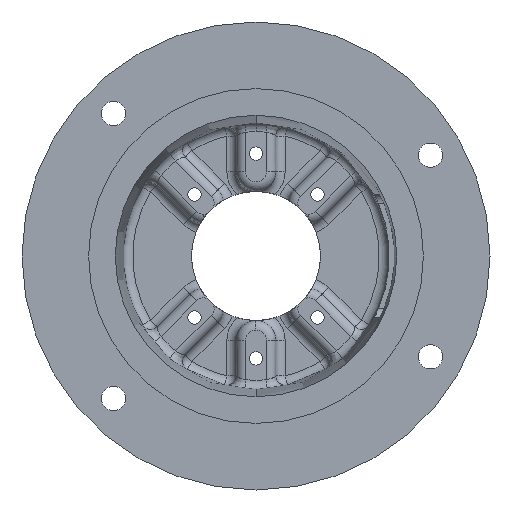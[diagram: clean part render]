
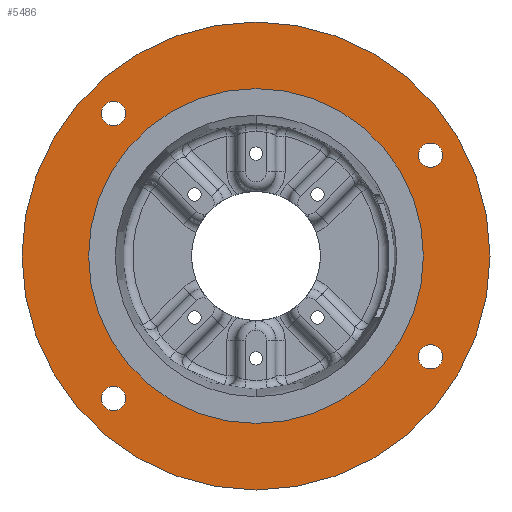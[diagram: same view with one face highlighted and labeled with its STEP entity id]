
A CAD part, front view. The second image highlights one B-rep face of the part: STEP entity #5486.
In plain terms, the highlighted planar face has unit normal (0, -1, 0).
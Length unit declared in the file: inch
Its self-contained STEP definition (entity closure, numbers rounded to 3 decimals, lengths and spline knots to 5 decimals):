
#61 = DIRECTION ( 'NONE',  ( 0., 0., -1. ) ) ;
#72 = DIRECTION ( 'NONE',  ( 0., 0., -1. ) ) ;
#93 = FACE_BOUND ( 'NONE', #2766, .T. ) ;
#133 = EDGE_CURVE ( 'NONE', #4486, #4375, #3570, .T. ) ;
#194 = AXIS2_PLACEMENT_3D ( 'NONE', #2025, #5898, #2582 ) ;
#208 = EDGE_CURVE ( 'NONE', #1495, #3956, #1748, .T. ) ;
#232 = DIRECTION ( 'NONE',  ( 0., 0., -1. ) ) ;
#259 = VERTEX_POINT ( 'NONE', #4059 ) ;
#282 = EDGE_LOOP ( 'NONE', ( #6484, #2380 ) ) ;
#319 = ORIENTED_EDGE ( 'NONE', *, *, #5654, .F. ) ;
#332 = EDGE_LOOP ( 'NONE', ( #2856, #4826 ) ) ;
#363 = AXIS2_PLACEMENT_3D ( 'NONE', #4843, #1519, #5396 ) ;
#402 = EDGE_CURVE ( 'NONE', #3956, #1495, #6928, .T. ) ;
#441 = VERTEX_POINT ( 'NONE', #6434 ) ;
#473 = EDGE_CURVE ( 'NONE', #3634, #3124, #902, .T. ) ;
#597 = CIRCLE ( 'NONE', #6866, 0.23438 ) ;
#772 = EDGE_LOOP ( 'NONE', ( #4644, #319 ) ) ;
#902 = CIRCLE ( 'NONE', #2045, 4.5 ) ;
#966 = VERTEX_POINT ( 'NONE', #6528 ) ;
#1013 = AXIS2_PLACEMENT_3D ( 'NONE', #6101, #2800, #6640 ) ;
#1055 = EDGE_CURVE ( 'NONE', #966, #259, #1398, .T. ) ;
#1212 = ORIENTED_EDGE ( 'NONE', *, *, #6654, .F. ) ;
#1315 = VERTEX_POINT ( 'NONE', #5710 ) ;
#1386 = FACE_BOUND ( 'NONE', #332, .T. ) ;
#1398 = CIRCLE ( 'NONE', #363, 0.23438 ) ;
#1444 = EDGE_LOOP ( 'NONE', ( #4508, #2929 ) ) ;
#1495 = VERTEX_POINT ( 'NONE', #3308 ) ;
#1519 = DIRECTION ( 'NONE',  ( 0., -1., 0. ) ) ;
#1560 = FACE_BOUND ( 'NONE', #6600, .T. ) ;
#1565 = CARTESIAN_POINT ( 'NONE',  ( 0., 0., -4.5 ) ) ;
#1748 = CIRCLE ( 'NONE', #3298, 0.23438 ) ;
#1769 = CARTESIAN_POINT ( 'NONE',  ( 0., 0., 0. ) ) ;
#1901 = CARTESIAN_POINT ( 'NONE',  ( 3.35585, 0., -1.70312 ) ) ;
#1997 = CIRCLE ( 'NONE', #1013, 0.23437 ) ;
#2025 = CARTESIAN_POINT ( 'NONE',  ( 3.35585, 0., 1.9375 ) ) ;
#2045 = AXIS2_PLACEMENT_3D ( 'NONE', #2629, #6476, #3176 ) ;
#2114 = DIRECTION ( 'NONE',  ( 0., -1., 0. ) ) ;
#2319 = CARTESIAN_POINT ( 'NONE',  ( 3.35585, 0., 1.9375 ) ) ;
#2340 = DIRECTION ( 'NONE',  ( 0., 0., -1. ) ) ;
#2380 = ORIENTED_EDGE ( 'NONE', *, *, #473, .T. ) ;
#2418 = DIRECTION ( 'NONE',  ( 0., -1., 0. ) ) ;
#2447 = AXIS2_PLACEMENT_3D ( 'NONE', #1769, #5653, #2340 ) ;
#2558 = AXIS2_PLACEMENT_3D ( 'NONE', #6675, #3385, #72 ) ;
#2582 = DIRECTION ( 'NONE',  ( 0., 0., -1. ) ) ;
#2629 = CARTESIAN_POINT ( 'NONE',  ( 0., 0., 0. ) ) ;
#2660 = CARTESIAN_POINT ( 'NONE',  ( -2.74004, 0., -2.74004 ) ) ;
#2717 = EDGE_CURVE ( 'NONE', #4375, #4486, #2862, .T. ) ;
#2766 = EDGE_LOOP ( 'NONE', ( #3453, #5418 ) ) ;
#2775 = CARTESIAN_POINT ( 'NONE',  ( 3.35585, 0., 1.70313 ) ) ;
#2800 = DIRECTION ( 'NONE',  ( 0., -1., 0. ) ) ;
#2856 = ORIENTED_EDGE ( 'NONE', *, *, #133, .F. ) ;
#2862 = CIRCLE ( 'NONE', #6680, 0.23438 ) ;
#2864 = FACE_OUTER_BOUND ( 'NONE', #282, .T. ) ;
#2884 = DIRECTION ( 'NONE',  ( 0., 0., -1. ) ) ;
#2929 = ORIENTED_EDGE ( 'NONE', *, *, #208, .F. ) ;
#2993 = AXIS2_PLACEMENT_3D ( 'NONE', #5404, #4834, #5972 ) ;
#3110 = EDGE_CURVE ( 'NONE', #441, #1315, #3123, .T. ) ;
#3116 = CIRCLE ( 'NONE', #6643, 0.23437 ) ;
#3123 = CIRCLE ( 'NONE', #4958, 3.2195 ) ;
#3124 = VERTEX_POINT ( 'NONE', #1565 ) ;
#3176 = DIRECTION ( 'NONE',  ( 0., 0., -1. ) ) ;
#3221 = DIRECTION ( 'NONE',  ( 0., 0., -1. ) ) ;
#3246 = CARTESIAN_POINT ( 'NONE',  ( 3.35585, 0., -2.17187 ) ) ;
#3298 = AXIS2_PLACEMENT_3D ( 'NONE', #2319, #6179, #2884 ) ;
#3308 = CARTESIAN_POINT ( 'NONE',  ( 3.35585, 0., 2.17188 ) ) ;
#3379 = DIRECTION ( 'NONE',  ( 0., -1., 0. ) ) ;
#3385 = DIRECTION ( 'NONE',  ( 0., -1., 0. ) ) ;
#3453 = ORIENTED_EDGE ( 'NONE', *, *, #3110, .F. ) ;
#3547 = DIRECTION ( 'NONE',  ( 0., -1., 0. ) ) ;
#3570 = CIRCLE ( 'NONE', #2558, 0.23438 ) ;
#3634 = VERTEX_POINT ( 'NONE', #3905 ) ;
#3798 = CIRCLE ( 'NONE', #6737, 4.5 ) ;
#3905 = CARTESIAN_POINT ( 'NONE',  ( 0., 0., 4.5 ) ) ;
#3956 = VERTEX_POINT ( 'NONE', #2775 ) ;
#4053 = CIRCLE ( 'NONE', #2447, 3.2195 ) ;
#4059 = CARTESIAN_POINT ( 'NONE',  ( -2.74004, 0., 2.97441 ) ) ;
#4143 = VERTEX_POINT ( 'NONE', #6732 ) ;
#4375 = VERTEX_POINT ( 'NONE', #1901 ) ;
#4486 = VERTEX_POINT ( 'NONE', #3246 ) ;
#4508 = ORIENTED_EDGE ( 'NONE', *, *, #402, .F. ) ;
#4644 = ORIENTED_EDGE ( 'NONE', *, *, #6451, .F. ) ;
#4826 = ORIENTED_EDGE ( 'NONE', *, *, #2717, .F. ) ;
#4834 = DIRECTION ( 'NONE',  ( 0., 1., 0. ) ) ;
#4843 = CARTESIAN_POINT ( 'NONE',  ( -2.74004, 0., 2.74004 ) ) ;
#4859 = PLANE ( 'NONE',  #2993 ) ;
#4958 = AXIS2_PLACEMENT_3D ( 'NONE', #5426, #2114, #6001 ) ;
#5011 = VERTEX_POINT ( 'NONE', #6837 ) ;
#5396 = DIRECTION ( 'NONE',  ( 0., 0., -1. ) ) ;
#5404 = CARTESIAN_POINT ( 'NONE',  ( -4.5, 0., 0. ) ) ;
#5418 = ORIENTED_EDGE ( 'NONE', *, *, #6564, .F. ) ;
#5426 = CARTESIAN_POINT ( 'NONE',  ( 0., 0., 0. ) ) ;
#5486 = ADVANCED_FACE ( 'NONE', ( #5989, #2864, #93, #1560, #5803, #1386 ), #4859, .F. ) ;
#5653 = DIRECTION ( 'NONE',  ( 0., -1., 0. ) ) ;
#5654 = EDGE_CURVE ( 'NONE', #4143, #5011, #1997, .T. ) ;
#5710 = CARTESIAN_POINT ( 'NONE',  ( 0., 0., 3.2195 ) ) ;
#5735 = CARTESIAN_POINT ( 'NONE',  ( 0., 0., 0. ) ) ;
#5803 = FACE_BOUND ( 'NONE', #772, .T. ) ;
#5898 = DIRECTION ( 'NONE',  ( 0., -1., 0. ) ) ;
#5972 = DIRECTION ( 'NONE',  ( 0., 0., 1. ) ) ;
#5989 = FACE_BOUND ( 'NONE', #1444, .T. ) ;
#6001 = DIRECTION ( 'NONE',  ( 0., 0., -1. ) ) ;
#6101 = CARTESIAN_POINT ( 'NONE',  ( -2.74004, 0., -2.74004 ) ) ;
#6179 = DIRECTION ( 'NONE',  ( 0., -1., 0. ) ) ;
#6270 = DIRECTION ( 'NONE',  ( 0., 0., -1. ) ) ;
#6434 = CARTESIAN_POINT ( 'NONE',  ( 0., 0., -3.2195 ) ) ;
#6451 = EDGE_CURVE ( 'NONE', #5011, #4143, #3116, .T. ) ;
#6476 = DIRECTION ( 'NONE',  ( 0., -1., 0. ) ) ;
#6484 = ORIENTED_EDGE ( 'NONE', *, *, #6971, .T. ) ;
#6512 = DIRECTION ( 'NONE',  ( 0., -1., 0. ) ) ;
#6528 = CARTESIAN_POINT ( 'NONE',  ( -2.74004, 0., 2.50566 ) ) ;
#6564 = EDGE_CURVE ( 'NONE', #1315, #441, #4053, .T. ) ;
#6600 = EDGE_LOOP ( 'NONE', ( #7128, #1212 ) ) ;
#6640 = DIRECTION ( 'NONE',  ( 0., 0., -1. ) ) ;
#6643 = AXIS2_PLACEMENT_3D ( 'NONE', #2660, #6512, #3221 ) ;
#6654 = EDGE_CURVE ( 'NONE', #259, #966, #597, .T. ) ;
#6670 = CARTESIAN_POINT ( 'NONE',  ( 3.35585, 0., -1.9375 ) ) ;
#6675 = CARTESIAN_POINT ( 'NONE',  ( 3.35585, 0., -1.9375 ) ) ;
#6680 = AXIS2_PLACEMENT_3D ( 'NONE', #6670, #3379, #61 ) ;
#6732 = CARTESIAN_POINT ( 'NONE',  ( -2.74004, 0., -2.50566 ) ) ;
#6737 = AXIS2_PLACEMENT_3D ( 'NONE', #5735, #2418, #6270 ) ;
#6835 = CARTESIAN_POINT ( 'NONE',  ( -2.74004, 0., 2.74004 ) ) ;
#6837 = CARTESIAN_POINT ( 'NONE',  ( -2.74004, 0., -2.97441 ) ) ;
#6866 = AXIS2_PLACEMENT_3D ( 'NONE', #6835, #3547, #232 ) ;
#6928 = CIRCLE ( 'NONE', #194, 0.23438 ) ;
#6971 = EDGE_CURVE ( 'NONE', #3124, #3634, #3798, .T. ) ;
#7128 = ORIENTED_EDGE ( 'NONE', *, *, #1055, .F. ) ;
